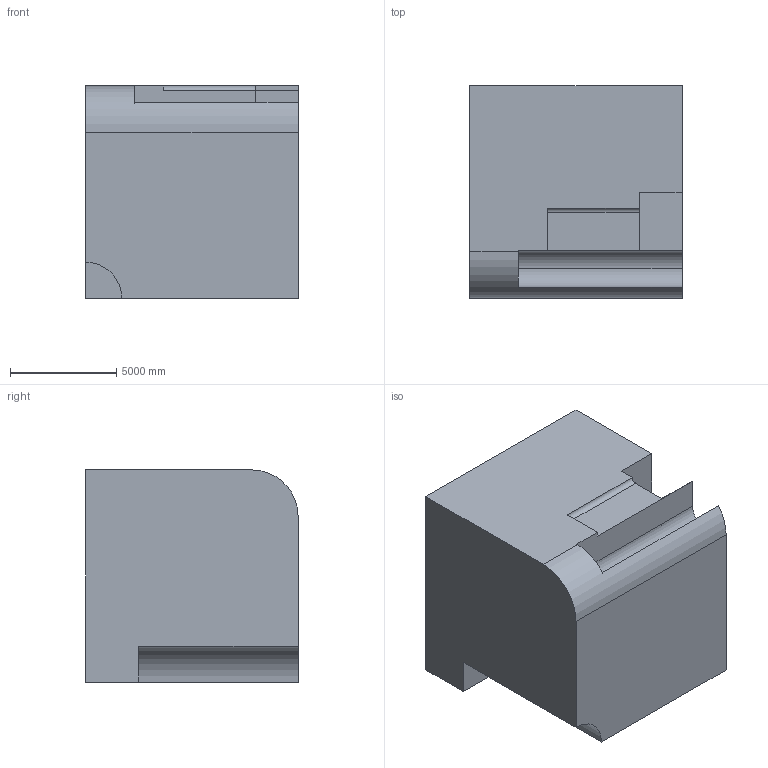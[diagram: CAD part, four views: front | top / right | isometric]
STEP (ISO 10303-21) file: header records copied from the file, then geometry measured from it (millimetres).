
FILE_DESCRIPTION (( 'STEP AP203' ), '1' );
FILE_NAME ('57.STEP', '2022-09-01T11:49:38', ( 'user' ), ( '' ), 'SwSTEP 2.0', 'SolidWorks 2021', '' );
FILE_SCHEMA (( 'CONFIG_CONTROL_DESIGN' ));
Length unit declared in the file: centimetre
Products named in the file (1): 57
Bounding box: 10000 x 10000 x 10000 mm (x, y, z)
Volume: 921768138074.1 mm3; surface area: 622068415.7 mm2
Topology: 1 solids, 1 shells, 25 faces, 69 edges, 46 vertices
Faces by surface type: plane 18, cylinder 7
Entity records: 875 total; most frequent: CARTESIAN_POINT 141, ORIENTED_EDGE 138, DIRECTION 136, EDGE_CURVE 69, VECTOR 54, LINE 54, VERTEX_POINT 46, AXIS2_PLACEMENT_3D 41
